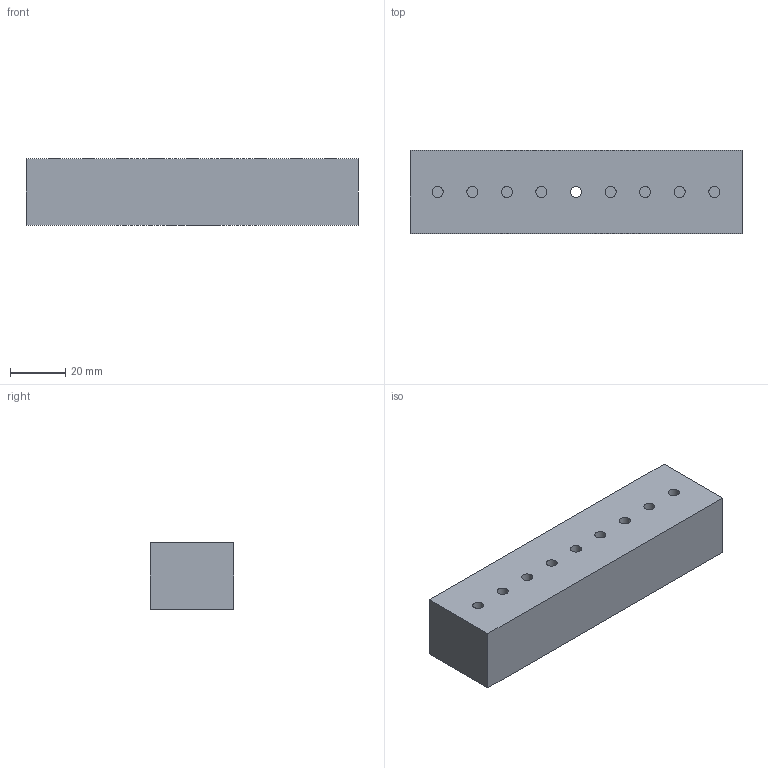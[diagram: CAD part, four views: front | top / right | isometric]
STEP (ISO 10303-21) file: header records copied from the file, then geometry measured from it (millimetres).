
FILE_DESCRIPTION(('Open CASCADE Model'),'2;1');
FILE_NAME('Open CASCADE Shape Model','2026-10-16T18:52:00',('Author'),( 'Open CASCADE'),'Open CASCADE STEP processor 7.8','Open CASCADE 7.8' ,'Unknown');
FILE_SCHEMA(('AUTOMOTIVE_DESIGN { 1 0 10303 214 1 1 1 1 }'));
Length unit declared in the file: millimetre
Products named in the file (1): Open CASCADE STEP translator 7.8 58
Bounding box: 120 x 30 x 24 mm (x, y, z)
Volume: 35870.2 mm3; surface area: 24513.3 mm2
Topology: 1 solids, 1 shells, 22 faces, 54 edges, 36 vertices
Faces by surface type: plane 12, cylinder 10
Full cylindrical faces by diameter (mm): 4 x9, 20 x1
Entity records: 1466 total; most frequent: CARTESIAN_POINT 341, DIRECTION 208, LINE 122, VECTOR 122, ORIENTED_EDGE 108, PCURVE 108, DEFINITIONAL_REPRESENTATION 108, EDGE_CURVE 54
